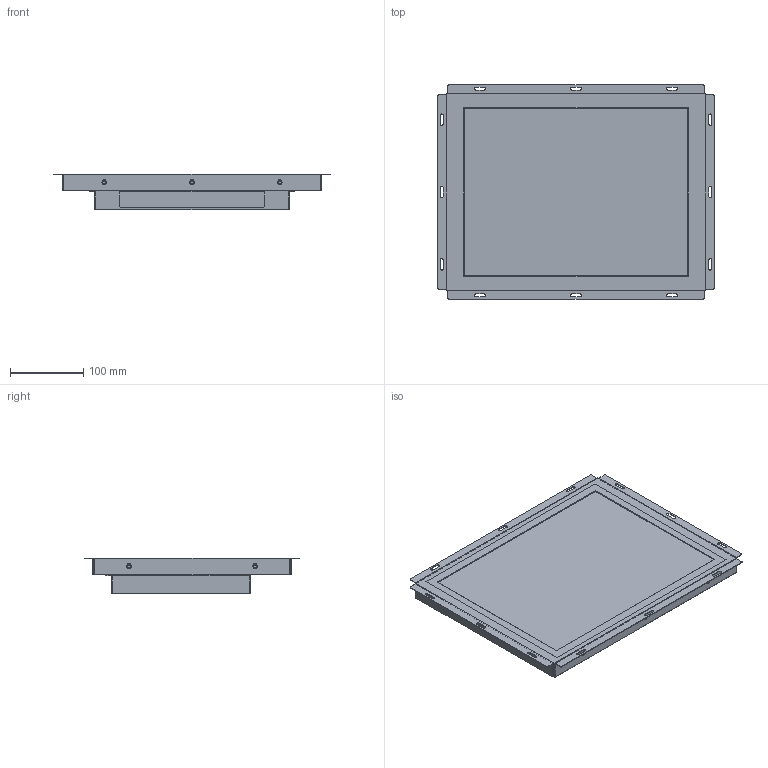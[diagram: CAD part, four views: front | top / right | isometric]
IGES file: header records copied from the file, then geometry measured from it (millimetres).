
Global section: file name: FIE150LM; native system: AutoCAD 2019 – 繁體中文 (Traditional Chinese),62HAutode; preprocessor: sk Translation Framework DWG producer (atf_dwg_producer); organization: unknown; date: 20210628.173429; units: millimetre
Bounding box: 376.7 x 292.3 x 49 mm (x, y, z)
Volume: 1200915.3 mm3; surface area: 1104615.5 mm2
Topology: 15 solids, 15 shells, 1086 faces, 2709 edges, 1800 vertices
Faces by surface type: bspline 1086
